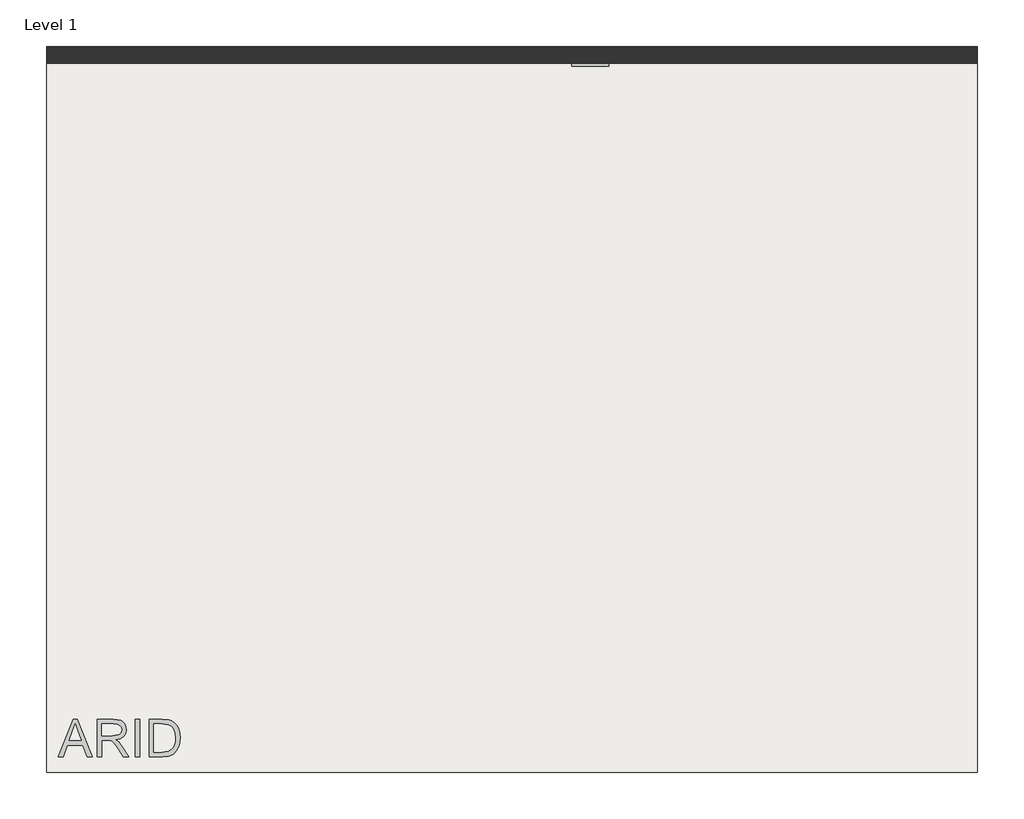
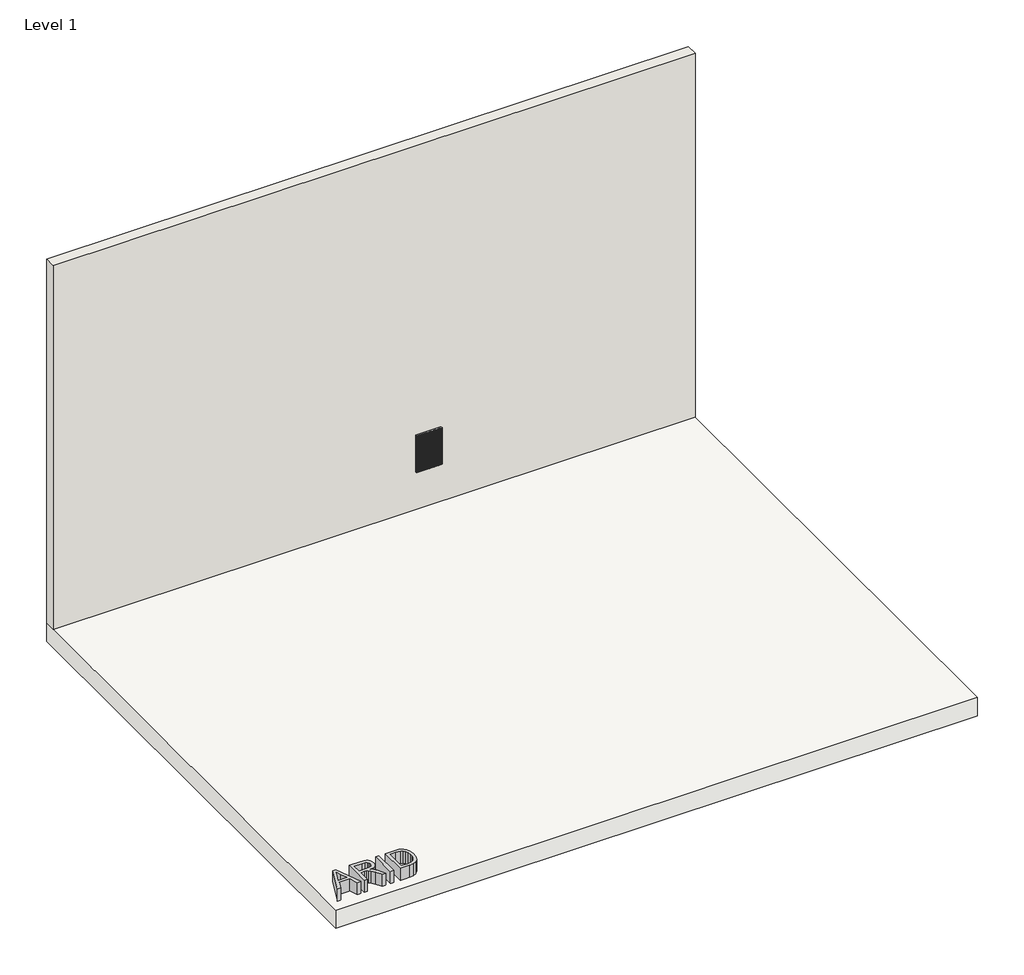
# One storey, incomplete: 1 light fixture, 1 proxy, 1 slab, 1 wall.
"""IFC4 building model written with IfcOpenShell, lengths in millimetres."""

from ifc_helpers import new_model, si_unit, frame, origin, origin_with_axes, place, context, project, spatial, polyline, outline, extrude, transform, mapped, element, save
from components import neutral_tile_arid_textured_ebony_black_u_b0ac42a1

model = new_model("IFC4")

# Units and contexts
model_context = context("Model", 3, world=origin())
ifc_project = project(units=[si_unit("LENGTHUNIT", "METRE", prefix="MILLI")], contexts=[model_context])

# Site, building, storey
site = spatial("IfcSite", under=ifc_project)
building = spatial("IfcBuilding", under=site)
storey = spatial("IfcBuildingStorey", under=building, Name="Level 1", Elevation=0.0)

# Proxy
placement = place(None, origin())
element("IfcBuildingElementProxy", 1, Name="200mm Arial", ObjectType="200mm Arial", at=placement, inside=storey, context=model_context, shape_type="SweptSolid", body=[
    extrude(outline(polyline([(-8342.5385014, 798.4307978), (-8262.3402264, 999.3434181), (-8240.9540198, 999.3434181), (-8160.8047957, 798.4307978), (-8187.3413503, 798.4307978), (-8210.2971868, 861.2159917), (-8293.0951612, 861.2159917), (-8316.0509977, 798.4307978), (-8342.5385014, 798.4307978)]), holes=[polyline([(-8283.8735859, 886.3300692), (-8219.4697112, 886.3300692), (-8237.6185563, 935.7243584), (-8251.696174, 974.2293406), (-8264.2041619, 940.0408405), (-8283.8735859, 886.3300692)])]), origin_with_axes(), (0.0, 0.0, 1.0), 100.0),
    extrude(outline(polyline([(-8133.9739356, 798.4307978), (-8133.9739356, 999.3434181), (-8047.3990394, 999.3434181), (-8024.1305032, 997.9883861), (-8007.2018, 993.92329), (-7994.8287023, 986.4184973), (-7985.2269822, 974.7443754), (-7979.0649588, 960.2682189), (-7977.010951, 944.3573226), (-7980.4138594, 924.5652712), (-7990.6225848, 908.1577342), (-8007.9436954, 896.127993), (-8032.6837596, 889.4693289), (-8018.4099381, 878.7271746), (-7998.0538011, 852.8773331), (-7964.552014, 798.4307978), (-7993.737319, 798.4307978), (-8019.8814661, 840.0750397), (-8038.7660752, 867.6416638), (-8052.0343525, 880.6646865), (-8063.9782546, 885.4471524), (-8078.5463816, 886.3300692), (-8108.859858, 886.3300692), (-8108.859858, 798.4307978), (-8133.9739356, 798.4307978)]), holes=[polyline([(-8108.859858, 911.4441467), (-8052.6474892, 911.4441467), (-8023.977219, 915.0003393), (-8014.5471772, 919.6233898), (-8007.6923093, 926.3801557), (-8002.1250285, 943.4253548), (-8004.7799102, 955.6758253), (-8012.7445554, 965.5473255), (-8026.4481597, 972.0588368), (-8046.3199188, 974.2293406), (-8108.859858, 974.2293406), (-8108.859858, 911.4441467)])]), origin_with_axes(), (0.0, 0.0, 1.0), 100.0),
    extrude(outline(polyline([(-7929.9220556, 798.4307978), (-7929.9220556, 999.3434181), (-7904.807978, 999.3434181), (-7904.807978, 798.4307978), (-7929.9220556, 798.4307978)])), origin_with_axes(), (0.0, 0.0, 1.0), 100.0),
    extrude(outline(polyline([(-7854.579823, 798.4307978), (-7854.579823, 999.3434181), (-7785.2708551, 999.3434181), (-7749.4146233, 996.4494131), (-7733.3994937, 990.8698695), (-7719.8859618, 982.0774898), (-7705.9922851, 966.7735988), (-7696.0962594, 947.7418369), (-7690.1733593, 925.3500861), (-7688.1990593, 899.9662285), (-7693.5456109, 859.4256326), (-7707.2798721, 830.1667513), (-7725.6249209, 811.9443298), (-7749.6353525, 801.8643631), (-7781.9353916, 798.4307978), (-7854.579823, 798.4307978)]), holes=[polyline([(-7829.4657454, 823.5448753), (-7785.0256004, 823.5448753), (-7752.7010358, 827.1746444), (-7734.0616813, 837.4262893), (-7725.3367467, 848.2972023), (-7718.7823158, 862.3686886), (-7714.6804316, 879.7020619), (-7713.3131368, 900.3586359), (-7715.992544, 927.7290564), (-7724.0307656, 947.9380407), (-7735.9072227, 961.8194546), (-7750.1013363, 970.2071641), (-7785.7123135, 974.2293406), (-7829.4657454, 974.2293406), (-7829.4657454, 823.5448753)])]), origin_with_axes(), (0.0, 0.0, 1.0), 100.0),
])

# Light fixture
neutral_tile_arid_textured_ebony_black_u_shape = neutral_tile_arid_textured_ebony_black_u_b0ac42a1(model_context)
element("IfcLightFixture", 2, ObjectType="BOVER_ARID_NEUTRAL_TILE_TEXTURED_USA : NEUTRAL_TILE_ARID_TEXTURED_EBONY_BLACK_U", at=placement, inside=storey, context=model_context, shape_type="MappedRepresentation", body=[
    mapped(neutral_tile_arid_textured_ebony_black_u_shape, transform((-5485.090184, 4525.2076786, 466.5236132), x_axis=(1.0, 0.0, 0.0), y_axis=(0.0, 0.0, 1.0), z_axis=(0.0, -1.0, 0.0))),
])

# Slab
element("IfcSlab", 3, ObjectType="Generic Floor - 150mm", at=placement, inside=storey, context=model_context, shape_type="SweptSolid", body=[
    extrude(outline(polyline([(-3405.090184, 4615.2076786), (-3405.090184, 715.2076786), (-8405.090184, 715.2076786), (-8405.090184, 4615.2076786), (-3405.090184, 4615.2076786)])), frame((0.0, 0.0, -150.0), z_axis=(0.0, 0.0, 1.0), x_axis=(1.0, 0.0, 0.0)), (0.0, 0.0, 1.0), 150.0),
])

# Wall
element("IfcWall", 4, ObjectType="Generic - 90mm Brick", at=placement, inside=storey, context=model_context, shape_type="SweptSolid", body=[
    extrude(outline(polyline([(-3405.090184, 4525.2076786), (-8405.090184, 4525.2076786), (-8405.090184, 4615.2076786), (-3405.090184, 4615.2076786), (-3405.090184, 4525.2076786)])), origin_with_axes(), (0.0, 0.0, 1.0), 3000.0),
])

save(model, "model.ifc")
